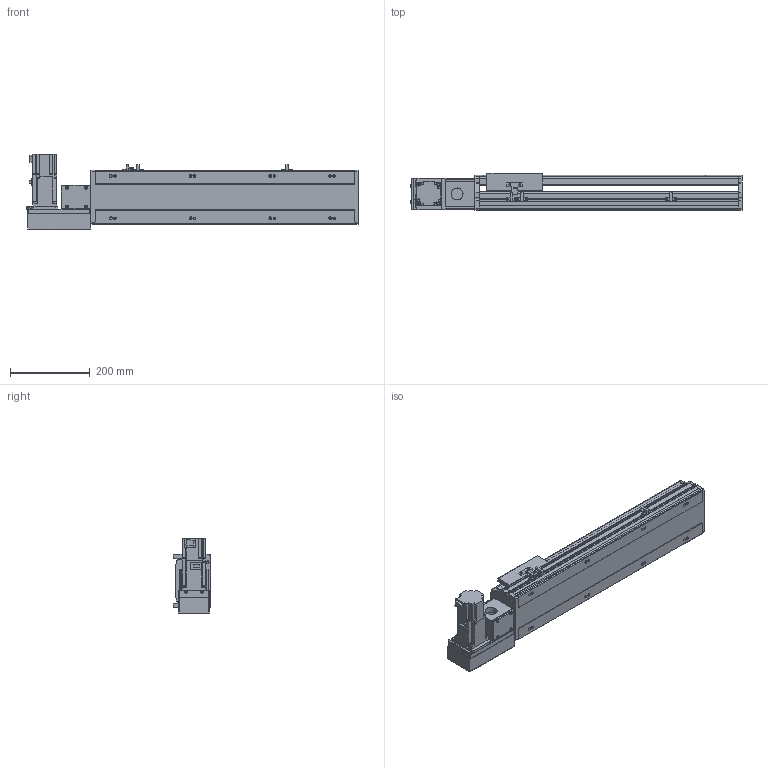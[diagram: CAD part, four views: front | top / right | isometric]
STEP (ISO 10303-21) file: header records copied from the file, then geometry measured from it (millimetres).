
FILE_DESCRIPTION( ( 'STEP AP214' ), '1' );
FILE_NAME( 'x:/temp/worker_6/temp/exporttempdir_5396_5_83XRq/format_0/PBS140S-P40-S400-L-T40-C1-N(0).stp', '2022-06-09T00:00:34', ( 'License CC BY-ND 4.0' ), ( 'CADENAS' ), ' ', 'PARTsolutions', ' ' );
FILE_SCHEMA( ( 'AUTOMOTIVE_DESIGN { 1 0 10303 214 1 1 1 1 }' ) );
Length unit declared in the file: millimetre
Products named in the file (7): PBS140S-P40-S400-L-T40-C1-N(0); _PBS140S-S400()_body; _PBS140ST-L_motors; _T40-p1; _PBS140S_sliser; _PBS140S_plant; _PBS140S_sensor
Assembly tree (8 placements, depth 2):
  PBS140S-P40-S400-L-T40-C1-N(0)
    _PBS140S-S400()_body
    _PBS140ST-L_motors
    _T40-p1
    _PBS140S_sliser
    _PBS140S_plant
    _PBS140S_sensor  x3
Bounding box: 833 x 93 x 189.7 mm (x, y, z)
Volume: 4307727.2 mm3; surface area: 771795.5 mm2
Topology: 8 solids, 8 shells, 1035 faces, 2751 edges, 1801 vertices
Faces by surface type: plane 678, cylinder 313, cone 34, sphere 8, torus 2
Full cylindrical faces by diameter (mm): 3.242 x4, 4 x2, 4.134 x4, 4.4 x8, 4.5 x2, 4.8 x4, 4.917 x16, 5.5 x7, 6 x2, 7 x10, 7.5 x8, 8 x12, 8.5 x4, 10.5 x8, 14 x1, 30 x2, 50 x2
Entity records: 37768 total; most frequent: CARTESIAN_POINT 5734, DIRECTION 5068, ORIENTED_EDGE 4822, EDGE_CURVE 2411, AXIS2_PLACEMENT_3D 1739, VERTEX_POINT 1657, LINE 1590, VECTOR 1590
